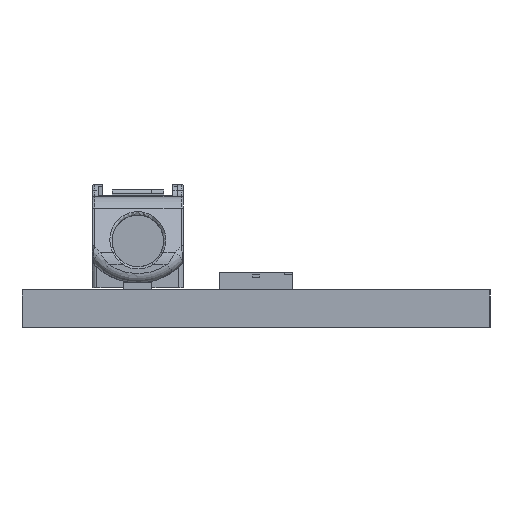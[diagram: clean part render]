
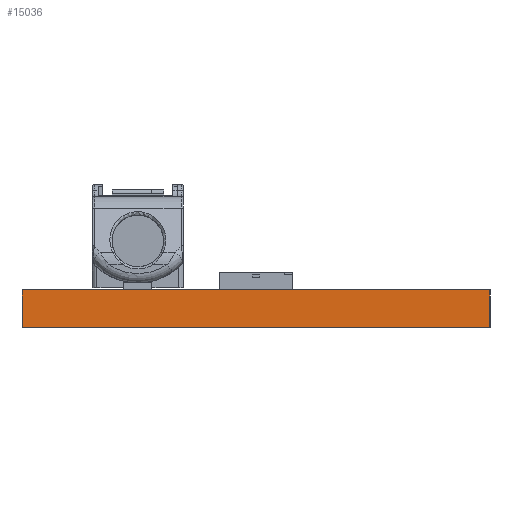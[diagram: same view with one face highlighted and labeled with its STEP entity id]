
A CAD part, left-side view. The second image highlights one B-rep face of the part: STEP entity #15036.
In plain terms, the highlighted planar face has unit normal (-1, 0, 0).
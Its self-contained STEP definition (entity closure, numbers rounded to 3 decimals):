
#2156=LINE('',#24738,#3868);
#2214=LINE('',#24873,#3926);
#2215=LINE('',#24875,#3927);
#2216=LINE('',#24876,#3928);
#3868=VECTOR('',#19611,10.);
#3926=VECTOR('',#19733,10.);
#3927=VECTOR('',#19736,10.);
#3928=VECTOR('',#19737,10.);
#4521=PLANE('',#16057);
#5194=FACE_OUTER_BOUND('',#6003,.T.);
#6003=EDGE_LOOP('',(#13995,#13996,#13997,#13998));
#7952=VERTEX_POINT('',#24734);
#7954=VERTEX_POINT('',#24737);
#7998=VERTEX_POINT('',#24869);
#7999=VERTEX_POINT('',#24871);
#10022=EDGE_CURVE('',#7952,#7954,#2156,.T.);
#10090=EDGE_CURVE('',#7998,#7999,#2214,.T.);
#10091=EDGE_CURVE('',#7998,#7952,#2215,.T.);
#10092=EDGE_CURVE('',#7954,#7999,#2216,.T.);
#13995=ORIENTED_EDGE('',*,*,#10091,.F.);
#13996=ORIENTED_EDGE('',*,*,#10090,.T.);
#13997=ORIENTED_EDGE('',*,*,#10092,.F.);
#13998=ORIENTED_EDGE('',*,*,#10022,.F.);
#15036=ADVANCED_FACE('',(#5194),#4521,.T.);
#16057=AXIS2_PLACEMENT_3D('',#24874,#19734,#19735);
#19611=DIRECTION('',(0.,0.,-1.));
#19733=DIRECTION('',(0.,0.,-1.));
#19734=DIRECTION('center_axis',(-1.,0.,0.));
#19735=DIRECTION('ref_axis',(0.,1.,0.));
#19736=DIRECTION('',(0.,-1.,0.));
#19737=DIRECTION('',(0.,1.,0.));
#24734=CARTESIAN_POINT('',(0.,0.,0.));
#24737=CARTESIAN_POINT('',(0.,0.,-1.6));
#24738=CARTESIAN_POINT('',(0.,0.,0.));
#24869=CARTESIAN_POINT('',(0.,20.,0.));
#24871=CARTESIAN_POINT('',(0.,20.,-1.6));
#24873=CARTESIAN_POINT('',(0.,20.,0.));
#24874=CARTESIAN_POINT('Origin',(0.,0.,0.));
#24875=CARTESIAN_POINT('',(0.,20.,0.));
#24876=CARTESIAN_POINT('',(0.,20.,-1.6));
